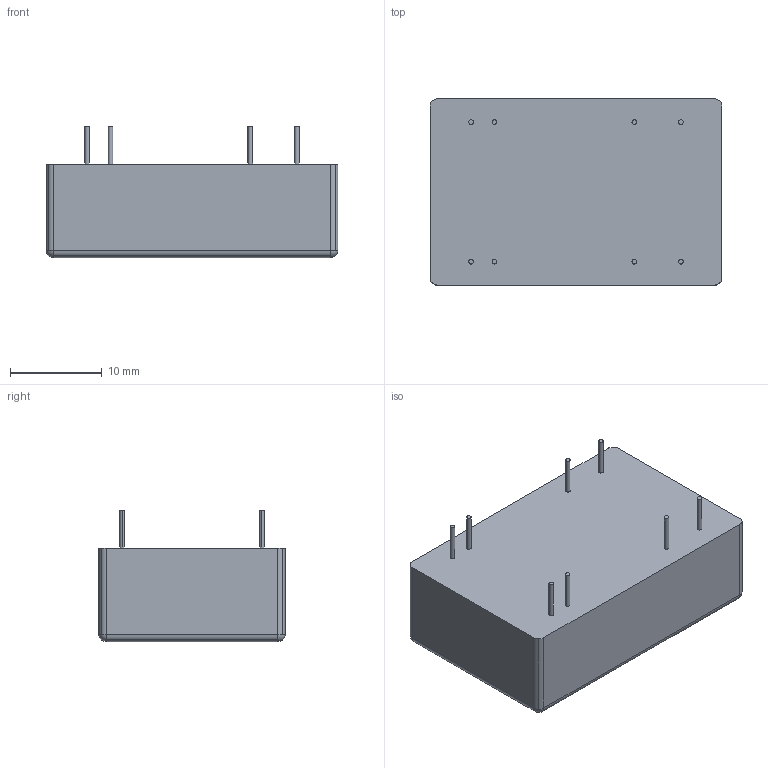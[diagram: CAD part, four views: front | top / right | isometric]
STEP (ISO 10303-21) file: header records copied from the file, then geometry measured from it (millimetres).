
FILE_DESCRIPTION (( 'STEP AP214' ), '1' );
FILE_NAME ('MIW3000-D.STEP', '2026-09-17T09:03:05', ( '' ), ( '' ), 'SwSTEP 2.0', 'SolidWorks 2021', '' );
FILE_SCHEMA (( 'AUTOMOTIVE_DESIGN' ));
Length unit declared in the file: millimetre
Products named in the file (1): MIW3000-D
Bounding box: 31.8 x 20.3 x 14.3 mm (x, y, z)
Volume: 6571.4 mm3; surface area: 2354.7 mm2
Topology: 1 solids, 1 shells, 50 faces, 112 edges, 68 vertices
Faces by surface type: cylinder 32, plane 14, sphere 4
Entity records: 1414 total; most frequent: DIRECTION 274, CARTESIAN_POINT 227, ORIENTED_EDGE 216, AXIS2_PLACEMENT_3D 115, EDGE_CURVE 108, VERTEX_POINT 68, CIRCLE 64, EDGE_LOOP 58
